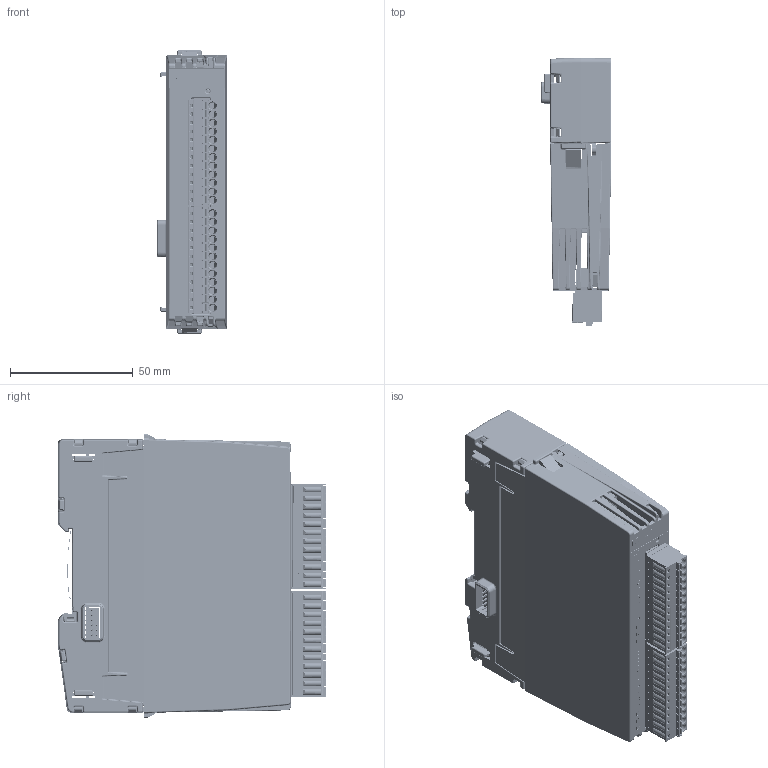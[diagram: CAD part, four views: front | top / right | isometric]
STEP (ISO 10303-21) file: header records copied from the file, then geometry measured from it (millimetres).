
FILE_DESCRIPTION(/* description */ (''),/* implementation_level */ '2;1');
FILE_NAME(/* name */ 'C:\Users\Public\Documents\Autodesk\Inventor 2023\IO14B_Simplified+BackBB21B.stp',/* time_stamp */ '2024-10-16T20:27:09+02:00',/* author */ ('shoma'),/* organization */ (''),/* preprocessor_version */ 'ST-DEVELOPER v19',/* originating_system */ 'Autodesk Inventor 2023',/* authorisation */ '');
FILE_SCHEMA (('AUTOMOTIVE_DESIGN { 1 0 10303 214 3 1 1 }'));
Products named in the file (1): IO14B_Simplified+BackBB21B
Bounding box: 28.9 x 109.39 x 115.5 mm (x, y, z)
Volume: 153432.2 mm3; surface area: 92865.9 mm2
Topology: 8 solids, 56 shells, 9299 faces, 24617 edges, 15512 vertices
Faces by surface type: plane 5609, cylinder 2391, bspline 859, cone 233, sphere 162, torus 45
Full cylindrical faces by diameter (mm): 0.296 x2, 0.3 x152, 0.457 x2, 0.7 x36, 0.8 x6, 0.85 x24, 0.9 x8, 1.17 x24, 1.2 x24, 1.25 x24, 1.3 x24, 1.4 x4, 1.6 x26, 2.35 x2, 2.5 x1, 3 x1, 3.1 x24, 3.25 x2
Entity records: 321255 total; most frequent: CARTESIAN_POINT 82571, ORIENTED_EDGE 48928, DIRECTION 45457, EDGE_CURVE 24464, LINE 17255, VECTOR 17255, VERTEX_POINT 15512, AXIS2_PLACEMENT_3D 14101
